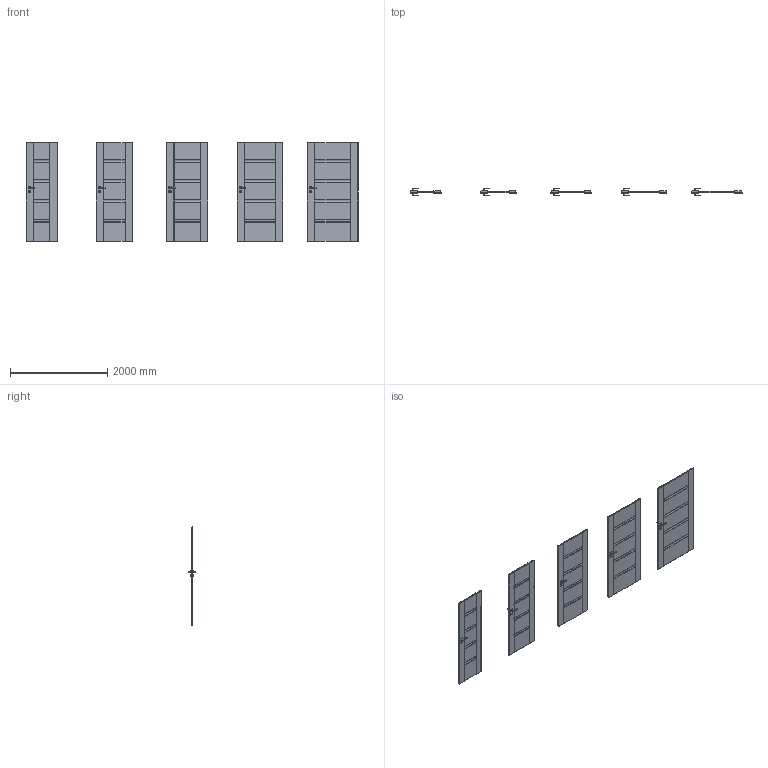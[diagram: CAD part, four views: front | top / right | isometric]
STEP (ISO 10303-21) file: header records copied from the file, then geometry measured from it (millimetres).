
FILE_DESCRIPTION(/* description */ (''),/* implementation_level */ '2;1');
FILE_NAME(/* name */ '049813_A_2-Skrzydło Inspire model C_ polska norma _PN__ przylgowe..stp',/* time_stamp */ '2024-08-23T12:53:24+02:00',/* author */ (''),/* organization */ (''),/* preprocessor_version */ 'ST-DEVELOPER v16',/* originating_system */ 'SIEMENS PLM Software NX 11.0',/* authorisation */ '');
FILE_SCHEMA (('AUTOMOTIVE_DESIGN { 1 0 10303 214 3 1 1 1 }'));
Products named in the file (1): bkni7F6C7DAAo2kg
Bounding box: 6844 x 153.13 x 2030.02 mm (x, y, z)
Volume: 297533182.3 mm3; surface area: 19121577.8 mm2
Topology: 27 solids, 117 shells, 2312 faces, 5831 edges, 3658 vertices
Faces by surface type: plane 1230, cylinder 773, bspline 169, sphere 140
Entity records: 74354 total; most frequent: CARTESIAN_POINT 20020, ORIENTED_EDGE 11382, DIRECTION 10963, EDGE_CURVE 5691, AXIS2_PLACEMENT_3D 3704, VERTEX_POINT 3658, LINE 3555, VECTOR 3555
